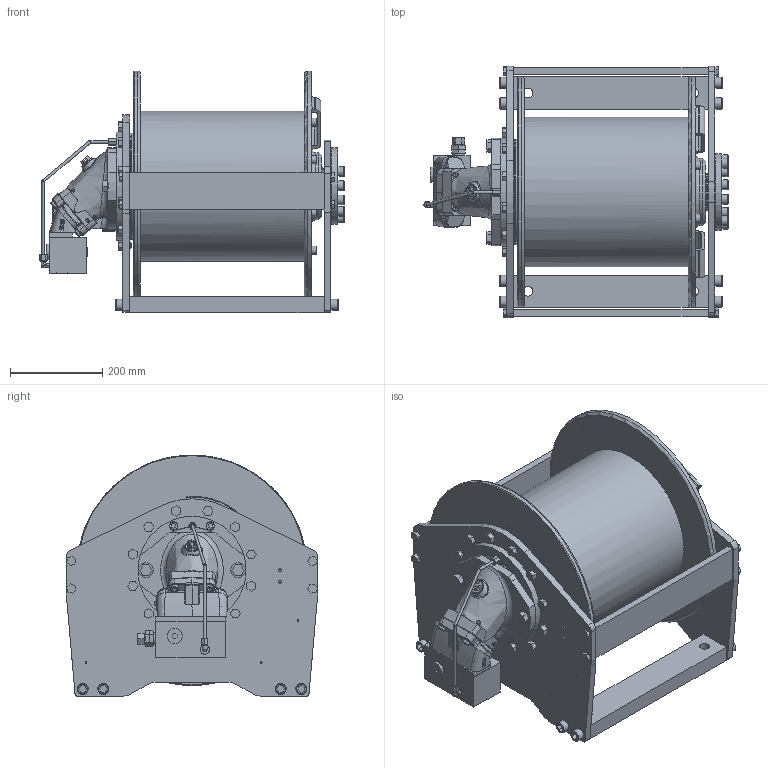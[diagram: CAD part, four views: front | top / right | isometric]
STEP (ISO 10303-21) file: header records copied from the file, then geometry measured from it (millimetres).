
FILE_DESCRIPTION( ( 'Unknown' ), '1' );
FILE_NAME( 'C:/Users/s.caputo/Desktop/Nuova cartella/S45V2_180925.stp', 'Unknown', ( 'Unknown' ), ( 'Unknown' ), 'PSStep 17.0.49', 'Unknown', ' ' );
FILE_SCHEMA( ( 'AUTOMOTIVE_DESIGN { 1 0 10303 214 1 1 1 1 }' ) );
Length unit declared in the file: millimetre
Products named in the file (64): SCM-M2 047-064 W35 V_1; 20426; 20428; 20429; SCM-M2 047-064 W35 V_0; 30033; 30254; SCM-M2 047-064 W35 V; 91923; 30007; 91630; 90307; 91625; 91372; 91617; 90074; 30275; 30349; 30350; Assem1; 1_2; 1_3; 1_4; 1_6; GVF-M-PB033-VU-040-DO-01; spessore; tubo; 1_0
Assembly tree (66 placements, depth 4):
  Assem1
    1_2
    1_3
    1_4
    1_6
    1_6
    GVF-M-PB033-VU-040-DO-01
    spessore
    tubo
    1_0
    1_0
    1_0
    1_0
    1_0
    1_0
    1_0
    1_0
    1_0
    1_0
    1_0
    1_0
    1_0
    1_0
    1_0
    1_0
    1_0
    1_0
    1_0
    1_0
    1_0
    1_0
    1_0
    1_0
    1_0
    1_0
    1_0
    1_0
    1_0
    1_0
    1_0
    1_0
    1_0
    1_0
    1_0
    1_0
    SCM-M2 047-064 W35 V
      91923
      30007
      91630
      90307
      91625
      91372
      91617  x4
      90074
      30275
      30349
      30350
      SCM-M2 047-064 W35 V_0
        30033
        30254
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Bounding box: 661.24 x 545 x 525 mm (x, y, z)
Volume: 17031022 mm3; surface area: 3354175.1 mm2
Topology: 60 solids, 990 shells, 2186 faces, 7490 edges, 6294 vertices
Faces by surface type: plane 1021, cylinder 597, bspline 195, cone 186, torus 121, extrusion 36, sphere 18, revolution 12
Full cylindrical faces by diameter (mm): 1.25 x4, 2.5 x2, 4.1 x3, 5 x7, 6 x5, 6.5 x4, 6.75 x1, 6.781 x1, 7.7 x1, 7.727 x1, 8 x6, 8.1 x8, 8.376 x12, 8.5 x12, 9 x8, 9.5 x1, 9.853 x9, 10 x14, 10.106 x1, 10.2 x1, 10.25 x4, 10.666 x1, 11 x13, 12 x17, 12.5 x6, 13 x1, 13.835 x8, 14 x10, 14.5 x11, 15 x12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
Entity records: 119492 total; most frequent: CARTESIAN_POINT 46019, DIRECTION 10697, ORIENTED_EDGE 8626, EDGE_CURVE 6429, VERTEX_POINT 5885, AXIS2_PLACEMENT_3D 3726, VECTOR 3233, LINE 3197
